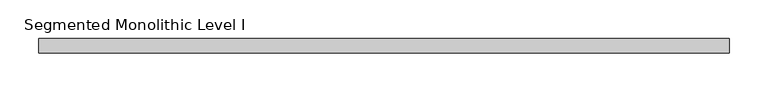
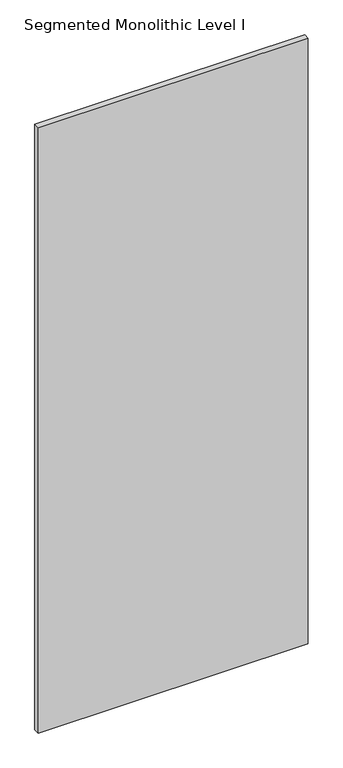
"""IFC4 building model written with IfcOpenShell, lengths in millimetres: proxy geometry, Panel-Fascia-Teknion-Altos-Standard : Segmented Monolithic Level I."""

from ifc_helpers import new_model, si_unit, frame, origin, place, context, project, spatial, polyline, outline, extrude, source, transform, mapped, element, save


def segmented_monolithic_level_i_a90e165b(model_context):
    return source(origin(), model_context, "Body", "SweptSolid", [
        extrude(outline(polyline([(447.0356344, -9.525), (-447.0356344, -9.525), (-447.0356344, 9.525), (447.0356344, 9.525), (447.0356344, -9.525)])), frame((0.0, 0.0, 3.175), z_axis=(0.0, 0.0, 1.0), x_axis=(1.0, 0.0, 0.0)), (0.0, 0.0, 1.0), 2117.725),
    ])


if __name__ == "__main__":
    model = new_model("IFC4")
    model_context = context("Model", 3, world=origin())
    ifc_project = project(units=[si_unit("LENGTHUNIT", "METRE", prefix="MILLI")], contexts=[model_context])
    site = spatial("IfcSite", under=ifc_project)
    building = spatial("IfcBuilding", under=site)
    placement = place(None, origin())
    segmented_monolithic_level_i_shape = segmented_monolithic_level_i_a90e165b(model_context)
    element("IfcBuildingElementProxy", 1, Name="Panel-Fascia-Teknion-Altos-Standard : Segmented Monolithic Level I", ObjectType="Panel-Fascia-Teknion-Altos-Standard : Segmented Monolithic Level I", at=placement, inside=building, context=model_context, shape_type="MappedRepresentation", body=[
        mapped(segmented_monolithic_level_i_shape, transform((0.0, 0.0, 0.0), x_axis=(1.0, 0.0, 0.0), y_axis=(0.0, 1.0, 0.0), z_axis=(0.0, 0.0, 1.0))),
    ])
    save(model, "model.ifc")
